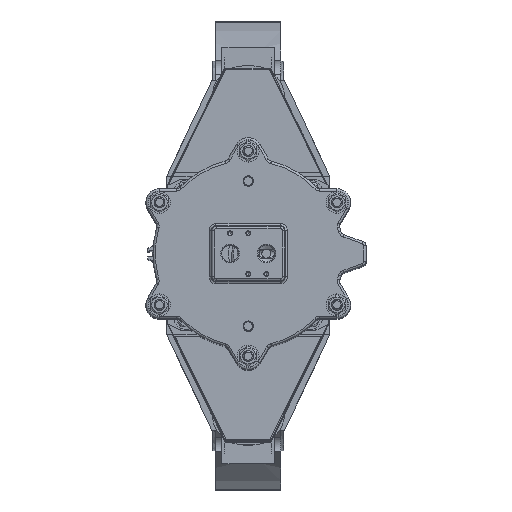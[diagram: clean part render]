
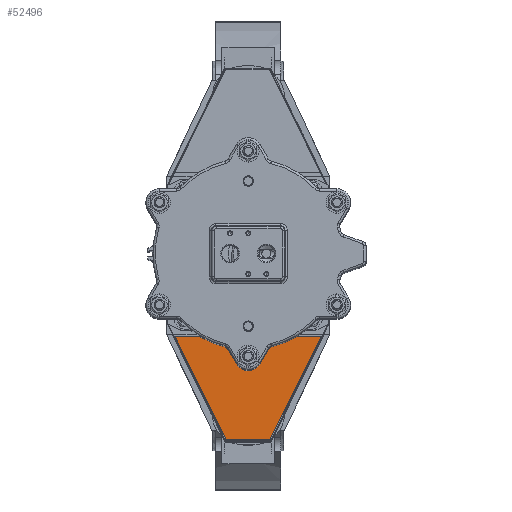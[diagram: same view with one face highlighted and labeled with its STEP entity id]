
A CAD part, top view. The second image highlights one B-rep face of the part: STEP entity #52496.
In plain terms, the highlighted planar face has unit normal (0, 0, 1).
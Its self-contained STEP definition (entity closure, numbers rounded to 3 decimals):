
#2314=LINE('',#83642,#5439);
#2318=LINE('',#83651,#5443);
#2319=LINE('',#83654,#5444);
#2325=LINE('',#83669,#5450);
#2328=LINE('',#83676,#5453);
#2329=LINE('',#83677,#5454);
#5439=VECTOR('',#66041,1.);
#5443=VECTOR('',#66047,1.);
#5444=VECTOR('',#66052,1.);
#5450=VECTOR('',#66072,1.);
#5453=VECTOR('',#66079,1.);
#5454=VECTOR('',#66080,1.);
#8500=PLANE('',#56780);
#11470=FACE_OUTER_BOUND('',#15137,.T.);
#15137=EDGE_LOOP('',(#38516,#38517,#38518,#38519,#38520,#38521));
#23659=VERTEX_POINT('',#83635);
#23662=VERTEX_POINT('',#83640);
#23664=VERTEX_POINT('',#83645);
#23666=VERTEX_POINT('',#83649);
#23668=VERTEX_POINT('',#83667);
#23670=VERTEX_POINT('',#83675);
#29263=EDGE_CURVE('',#23659,#23662,#2314,.T.);
#29267=EDGE_CURVE('',#23664,#23666,#2318,.T.);
#29269=EDGE_CURVE('',#23666,#23659,#2319,.T.);
#29278=EDGE_CURVE('',#23662,#23668,#2325,.T.);
#29281=EDGE_CURVE('',#23670,#23668,#2328,.T.);
#29282=EDGE_CURVE('',#23664,#23670,#2329,.T.);
#38516=ORIENTED_EDGE('',*,*,#29269,.T.);
#38517=ORIENTED_EDGE('',*,*,#29263,.T.);
#38518=ORIENTED_EDGE('',*,*,#29278,.T.);
#38519=ORIENTED_EDGE('',*,*,#29281,.F.);
#38520=ORIENTED_EDGE('',*,*,#29282,.F.);
#38521=ORIENTED_EDGE('',*,*,#29267,.T.);
#52496=ADVANCED_FACE('',(#11470),#8500,.T.);
#56780=AXIS2_PLACEMENT_3D('',#83674,#66077,#66078);
#66041=DIRECTION('',(0.444,0.896,0.));
#66047=DIRECTION('',(0.444,-0.896,0.));
#66052=DIRECTION('',(1.,0.,0.));
#66072=DIRECTION('',(0.,1.,0.));
#66077=DIRECTION('center_axis',(0.,0.,
1.));
#66078=DIRECTION('ref_axis',(0.,-1.,0.));
#66079=DIRECTION('',(1.,0.,0.));
#66080=DIRECTION('',(0.,1.,0.));
#83635=CARTESIAN_POINT('',(68.814,-204.091,740.23));
#83640=CARTESIAN_POINT('',(124.826,-91.091,740.214));
#83642=CARTESIAN_POINT('',(93.646,-153.994,740.223));
#83645=CARTESIAN_POINT('',(-35.174,-91.091,740.214));
#83649=CARTESIAN_POINT('',(20.837,-204.091,740.23));
#83651=CARTESIAN_POINT('',(-35.552,-90.328,740.214));
#83654=CARTESIAN_POINT('',(20.837,-204.091,740.23));
#83667=CARTESIAN_POINT('',(124.826,-90.141,740.214));
#83669=CARTESIAN_POINT('',(124.826,-204.091,740.23));
#83674=CARTESIAN_POINT('Origin',(-35.174,-90.141,740.214));
#83675=CARTESIAN_POINT('',(-35.174,-90.141,740.214));
#83676=CARTESIAN_POINT('',(-35.174,-90.141,740.214));
#83677=CARTESIAN_POINT('',(-35.174,-204.091,740.23));
